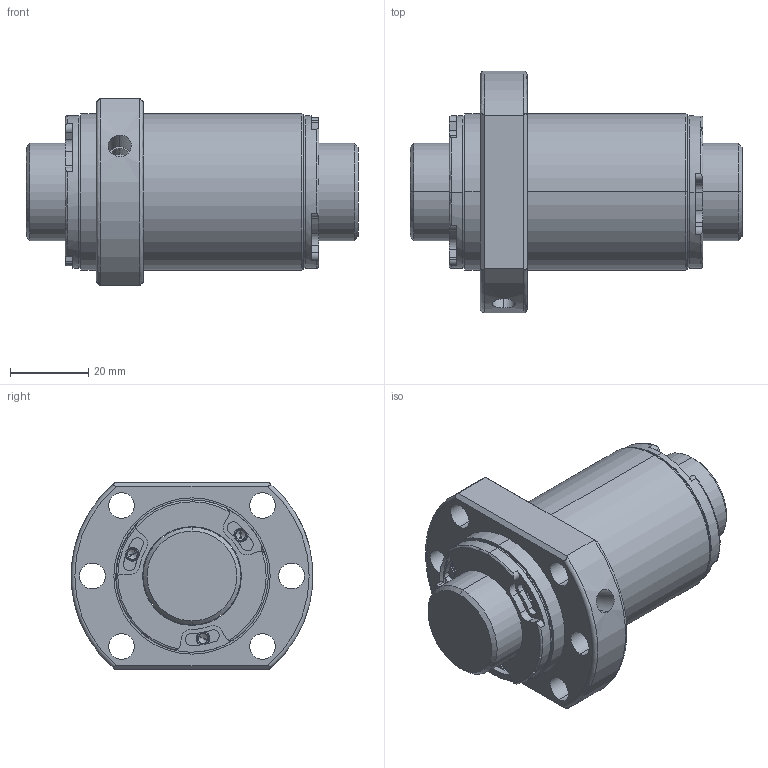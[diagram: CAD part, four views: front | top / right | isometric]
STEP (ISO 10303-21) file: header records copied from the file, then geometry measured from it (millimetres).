
FILE_DESCRIPTION (( 'STEP AP203' ), '1' );
FILE_NAME ('SFHR02525A1D-C.STEP', '2020-06-17T08:02:27', ( '' ), ( '' ), 'SwSTEP 2.0', 'SolidWorks 2013', '' );
FILE_SCHEMA (( 'CONFIG_CONTROL_DESIGN' ));
Length unit declared in the file: millimetre
Products named in the file (1): SFHR02525A1D-C
Bounding box: 85 x 61.83 x 48 mm (x, y, z)
Volume: 99325.3 mm3; surface area: 27976.8 mm2
Topology: 2 solids, 2 shells, 246 faces, 612 edges, 382 vertices
Faces by surface type: cylinder 134, plane 70, cone 28, torus 14
Entity records: 7737 total; most frequent: CARTESIAN_POINT 1553, DIRECTION 1432, ORIENTED_EDGE 1200, AXIS2_PLACEMENT_3D 609, EDGE_CURVE 600, VERTEX_POINT 382, CIRCLE 362, EDGE_LOOP 286
